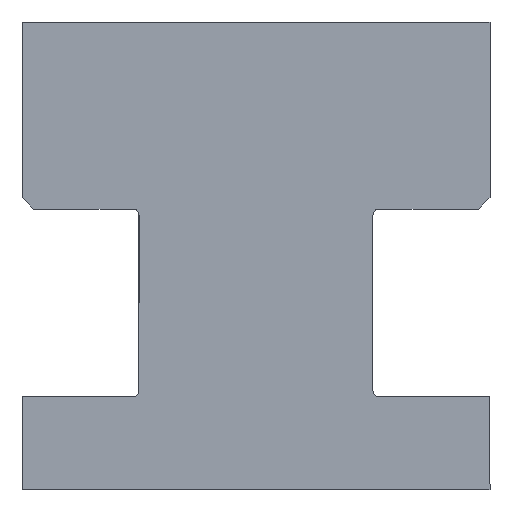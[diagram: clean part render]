
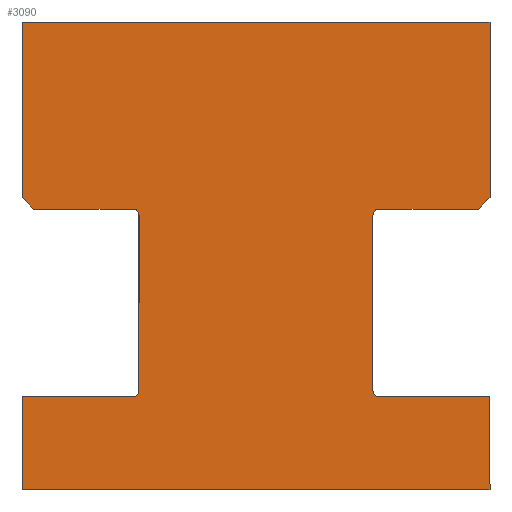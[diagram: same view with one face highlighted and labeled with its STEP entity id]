
A CAD part, front view. The second image highlights one B-rep face of the part: STEP entity #3090.
In plain terms, the highlighted planar face has unit normal (0, -1, 0).
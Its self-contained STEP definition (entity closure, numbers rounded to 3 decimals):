
#73 = DIRECTION ( 'NONE',  ( 0., 1., 0. ) ) ;
#90 = EDGE_LOOP ( 'NONE', ( #6722, #2856, #5764, #3084, #7169, #2266, #2924, #7095, #7812, #4480, #3776, #6720, #3396, #4205, #4126, #6571, #2284, #3894 ) ) ;
#118 = CARTESIAN_POINT ( 'NONE',  ( -5.25, -63., 11.75 ) ) ;
#124 = VECTOR ( 'NONE', #2690, 1000. ) ;
#229 = VERTEX_POINT ( 'NONE', #6518 ) ;
#264 = EDGE_CURVE ( 'NONE', #5228, #4371, #5733, .T. ) ;
#338 = CARTESIAN_POINT ( 'NONE',  ( 10., -63., 4. ) ) ;
#370 = EDGE_CURVE ( 'NONE', #8154, #1507, #5739, .T. ) ;
#386 = CARTESIAN_POINT ( 'NONE',  ( -9.5, -63., 12. ) ) ;
#451 = LINE ( 'NONE', #2383, #8053 ) ;
#464 = EDGE_CURVE ( 'NONE', #5831, #6217, #2145, .T. ) ;
#547 = CARTESIAN_POINT ( 'NONE',  ( -10., -63., 20. ) ) ;
#570 = DIRECTION ( 'NONE',  ( 0., 0., 1. ) ) ;
#638 = CARTESIAN_POINT ( 'NONE',  ( 9.5, -63., 12. ) ) ;
#662 = VERTEX_POINT ( 'NONE', #883 ) ;
#807 = AXIS2_PLACEMENT_3D ( 'NONE', #118, #2609, #7783 ) ;
#827 = VECTOR ( 'NONE', #5935, 1000. ) ;
#883 = CARTESIAN_POINT ( 'NONE',  ( -5.25, -63., 4. ) ) ;
#905 = CARTESIAN_POINT ( 'NONE',  ( 5.25, -63., 11.75 ) ) ;
#1011 = DIRECTION ( 'NONE',  ( -1., 0., 0. ) ) ;
#1038 = CARTESIAN_POINT ( 'NONE',  ( 10., -63., 20. ) ) ;
#1081 = VECTOR ( 'NONE', #3512, 1000. ) ;
#1114 = VECTOR ( 'NONE', #5960, 1000. ) ;
#1190 = LINE ( 'NONE', #8169, #2839 ) ;
#1226 = CARTESIAN_POINT ( 'NONE',  ( 5.25, -63., 12. ) ) ;
#1233 = CARTESIAN_POINT ( 'NONE',  ( -10., -63., 20. ) ) ;
#1234 = VECTOR ( 'NONE', #8030, 1000. ) ;
#1355 = VECTOR ( 'NONE', #7000, 1000. ) ;
#1383 = DIRECTION ( 'NONE',  ( 0., 0., -1. ) ) ;
#1452 = VERTEX_POINT ( 'NONE', #2202 ) ;
#1506 = CIRCLE ( 'NONE', #1640, 0.25 ) ;
#1507 = VERTEX_POINT ( 'NONE', #6737 ) ;
#1632 = VECTOR ( 'NONE', #1011, 1000. ) ;
#1640 = AXIS2_PLACEMENT_3D ( 'NONE', #905, #6661, #7295 ) ;
#1650 = CARTESIAN_POINT ( 'NONE',  ( -10., -63., 20. ) ) ;
#1710 = VERTEX_POINT ( 'NONE', #6190 ) ;
#1850 = CARTESIAN_POINT ( 'NONE',  ( 10., -63., 20. ) ) ;
#1896 = FACE_OUTER_BOUND ( 'NONE', #90, .T. ) ;
#1904 = CARTESIAN_POINT ( 'NONE',  ( -5.25, -63., 12. ) ) ;
#2013 = CARTESIAN_POINT ( 'NONE',  ( 5., -63., 4.25 ) ) ;
#2145 = LINE ( 'NONE', #6069, #1081 ) ;
#2202 = CARTESIAN_POINT ( 'NONE',  ( 10., -63., 20. ) ) ;
#2259 = CARTESIAN_POINT ( 'NONE',  ( 10., -63., 4. ) ) ;
#2266 = ORIENTED_EDGE ( 'NONE', *, *, #2365, .T. ) ;
#2284 = ORIENTED_EDGE ( 'NONE', *, *, #5485, .T. ) ;
#2309 = DIRECTION ( 'NONE',  ( 0., 0., -1. ) ) ;
#2342 = CARTESIAN_POINT ( 'NONE',  ( -5.25, -63., 4.25 ) ) ;
#2365 = EDGE_CURVE ( 'NONE', #6217, #5008, #4179, .T. ) ;
#2383 = CARTESIAN_POINT ( 'NONE',  ( -10., -63., 20. ) ) ;
#2434 = EDGE_CURVE ( 'NONE', #1452, #7910, #7656, .T. ) ;
#2609 = DIRECTION ( 'NONE',  ( 0., 1., 0. ) ) ;
#2648 = DIRECTION ( 'NONE',  ( 0., 0., 1. ) ) ;
#2690 = DIRECTION ( 'NONE',  ( 1., 0., 0. ) ) ;
#2821 = VECTOR ( 'NONE', #2309, 1000. ) ;
#2839 = VECTOR ( 'NONE', #3190, 1000. ) ;
#2856 = ORIENTED_EDGE ( 'NONE', *, *, #5066, .T. ) ;
#2924 = ORIENTED_EDGE ( 'NONE', *, *, #4596, .T. ) ;
#3019 = LINE ( 'NONE', #3706, #2821 ) ;
#3084 = ORIENTED_EDGE ( 'NONE', *, *, #6892, .F. ) ;
#3087 = VERTEX_POINT ( 'NONE', #2013 ) ;
#3090 = ADVANCED_FACE ( 'NONE', ( #1896 ), #4559, .F. ) ;
#3100 = AXIS2_PLACEMENT_3D ( 'NONE', #6637, #3462, #6011 ) ;
#3182 = EDGE_CURVE ( 'NONE', #1507, #3402, #3019, .T. ) ;
#3186 = CARTESIAN_POINT ( 'NONE',  ( -9.5, -63., 12. ) ) ;
#3190 = DIRECTION ( 'NONE',  ( 0., 0., 1. ) ) ;
#3327 = CARTESIAN_POINT ( 'NONE',  ( -5., -63., 4.25 ) ) ;
#3351 = CARTESIAN_POINT ( 'NONE',  ( 10., -63., 0. ) ) ;
#3396 = ORIENTED_EDGE ( 'NONE', *, *, #264, .T. ) ;
#3402 = VERTEX_POINT ( 'NONE', #3327 ) ;
#3460 = VERTEX_POINT ( 'NONE', #638 ) ;
#3462 = DIRECTION ( 'NONE',  ( 0., 1., 0. ) ) ;
#3512 = DIRECTION ( 'NONE',  ( 0., 0., -1. ) ) ;
#3545 = LINE ( 'NONE', #2259, #1234 ) ;
#3706 = CARTESIAN_POINT ( 'NONE',  ( -5., -63., 4.25 ) ) ;
#3776 = ORIENTED_EDGE ( 'NONE', *, *, #6099, .T. ) ;
#3894 = ORIENTED_EDGE ( 'NONE', *, *, #7057, .T. ) ;
#4126 = ORIENTED_EDGE ( 'NONE', *, *, #6085, .T. ) ;
#4166 = CARTESIAN_POINT ( 'NONE',  ( -10., -63., 4. ) ) ;
#4179 = LINE ( 'NONE', #386, #7359 ) ;
#4192 = LINE ( 'NONE', #1038, #1114 ) ;
#4205 = ORIENTED_EDGE ( 'NONE', *, *, #8038, .F. ) ;
#4268 = AXIS2_PLACEMENT_3D ( 'NONE', #1233, #73, #2648 ) ;
#4294 = EDGE_CURVE ( 'NONE', #4848, #3460, #6624, .T. ) ;
#4325 = CARTESIAN_POINT ( 'NONE',  ( -10., -63., 12. ) ) ;
#4367 = VERTEX_POINT ( 'NONE', #338 ) ;
#4371 = VERTEX_POINT ( 'NONE', #3351 ) ;
#4480 = ORIENTED_EDGE ( 'NONE', *, *, #6801, .T. ) ;
#4559 = PLANE ( 'NONE',  #4268 ) ;
#4596 = EDGE_CURVE ( 'NONE', #5008, #8154, #6370, .T. ) ;
#4824 = DIRECTION ( 'NONE',  ( 0.707, 0., -0.707 ) ) ;
#4848 = VERTEX_POINT ( 'NONE', #1226 ) ;
#4924 = DIRECTION ( 'NONE',  ( 1., 0., 0. ) ) ;
#5008 = VERTEX_POINT ( 'NONE', #3186 ) ;
#5066 = EDGE_CURVE ( 'NONE', #3460, #7910, #7185, .T. ) ;
#5228 = VERTEX_POINT ( 'NONE', #6053 ) ;
#5369 = VECTOR ( 'NONE', #6583, 1000. ) ;
#5485 = EDGE_CURVE ( 'NONE', #3087, #7234, #1190, .T. ) ;
#5503 = CARTESIAN_POINT ( 'NONE',  ( 5., -63., 11.75 ) ) ;
#5563 = DIRECTION ( 'NONE',  ( 0., 1., 0. ) ) ;
#5733 = LINE ( 'NONE', #7736, #124 ) ;
#5739 = CIRCLE ( 'NONE', #807, 0.25 ) ;
#5764 = ORIENTED_EDGE ( 'NONE', *, *, #2434, .F. ) ;
#5831 = VERTEX_POINT ( 'NONE', #1650 ) ;
#5833 = CARTESIAN_POINT ( 'NONE',  ( 10., -63., 12.5 ) ) ;
#5891 = CARTESIAN_POINT ( 'NONE',  ( 10., -63., 12.5 ) ) ;
#5935 = DIRECTION ( 'NONE',  ( 0.707, 0., 0.707 ) ) ;
#5960 = DIRECTION ( 'NONE',  ( 0., 0., -1. ) ) ;
#6011 = DIRECTION ( 'NONE',  ( 0., 0., 1. ) ) ;
#6049 = EDGE_CURVE ( 'NONE', #1710, #3087, #6561, .T. ) ;
#6053 = CARTESIAN_POINT ( 'NONE',  ( -10., -63., 0. ) ) ;
#6069 = CARTESIAN_POINT ( 'NONE',  ( -10., -63., 20. ) ) ;
#6085 = EDGE_CURVE ( 'NONE', #4367, #1710, #3545, .T. ) ;
#6099 = EDGE_CURVE ( 'NONE', #662, #229, #7355, .T. ) ;
#6150 = VECTOR ( 'NONE', #6323, 1000. ) ;
#6173 = CIRCLE ( 'NONE', #7642, 0.25 ) ;
#6190 = CARTESIAN_POINT ( 'NONE',  ( 5.25, -63., 4. ) ) ;
#6217 = VERTEX_POINT ( 'NONE', #6904 ) ;
#6323 = DIRECTION ( 'NONE',  ( 0., 0., -1. ) ) ;
#6370 = LINE ( 'NONE', #4325, #1355 ) ;
#6518 = CARTESIAN_POINT ( 'NONE',  ( -10., -63., 4. ) ) ;
#6561 = CIRCLE ( 'NONE', #3100, 0.25 ) ;
#6571 = ORIENTED_EDGE ( 'NONE', *, *, #6049, .T. ) ;
#6583 = DIRECTION ( 'NONE',  ( 1., 0., 0. ) ) ;
#6624 = LINE ( 'NONE', #7889, #5369 ) ;
#6637 = CARTESIAN_POINT ( 'NONE',  ( 5.25, -63., 4.25 ) ) ;
#6661 = DIRECTION ( 'NONE',  ( 0., 1., 0. ) ) ;
#6720 = ORIENTED_EDGE ( 'NONE', *, *, #7668, .T. ) ;
#6722 = ORIENTED_EDGE ( 'NONE', *, *, #4294, .T. ) ;
#6737 = CARTESIAN_POINT ( 'NONE',  ( -5., -63., 11.75 ) ) ;
#6801 = EDGE_CURVE ( 'NONE', #3402, #662, #6173, .T. ) ;
#6832 = VECTOR ( 'NONE', #1383, 1000. ) ;
#6892 = EDGE_CURVE ( 'NONE', #5831, #1452, #451, .T. ) ;
#6904 = CARTESIAN_POINT ( 'NONE',  ( -10., -63., 12.5 ) ) ;
#6936 = LINE ( 'NONE', #547, #6832 ) ;
#7000 = DIRECTION ( 'NONE',  ( 1., 0., 0. ) ) ;
#7057 = EDGE_CURVE ( 'NONE', #7234, #4848, #1506, .T. ) ;
#7095 = ORIENTED_EDGE ( 'NONE', *, *, #370, .T. ) ;
#7169 = ORIENTED_EDGE ( 'NONE', *, *, #464, .T. ) ;
#7185 = LINE ( 'NONE', #5891, #827 ) ;
#7234 = VERTEX_POINT ( 'NONE', #5503 ) ;
#7295 = DIRECTION ( 'NONE',  ( 0., 0., -1. ) ) ;
#7355 = LINE ( 'NONE', #4166, #1632 ) ;
#7359 = VECTOR ( 'NONE', #4824, 1000. ) ;
#7642 = AXIS2_PLACEMENT_3D ( 'NONE', #2342, #5563, #570 ) ;
#7656 = LINE ( 'NONE', #1850, #6150 ) ;
#7668 = EDGE_CURVE ( 'NONE', #229, #5228, #6936, .T. ) ;
#7736 = CARTESIAN_POINT ( 'NONE',  ( -10., -63., 0. ) ) ;
#7783 = DIRECTION ( 'NONE',  ( 0., 0., -1. ) ) ;
#7812 = ORIENTED_EDGE ( 'NONE', *, *, #3182, .T. ) ;
#7889 = CARTESIAN_POINT ( 'NONE',  ( 10., -63., 12. ) ) ;
#7910 = VERTEX_POINT ( 'NONE', #5833 ) ;
#8030 = DIRECTION ( 'NONE',  ( -1., 0., 0. ) ) ;
#8038 = EDGE_CURVE ( 'NONE', #4367, #4371, #4192, .T. ) ;
#8053 = VECTOR ( 'NONE', #4924, 1000. ) ;
#8154 = VERTEX_POINT ( 'NONE', #1904 ) ;
#8169 = CARTESIAN_POINT ( 'NONE',  ( 5., -63., 4.25 ) ) ;
